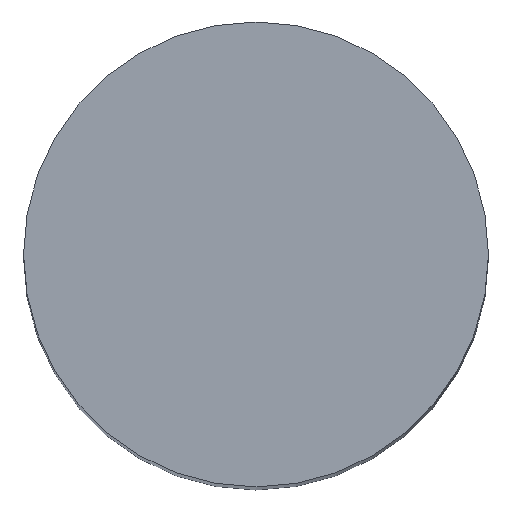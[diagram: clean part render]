
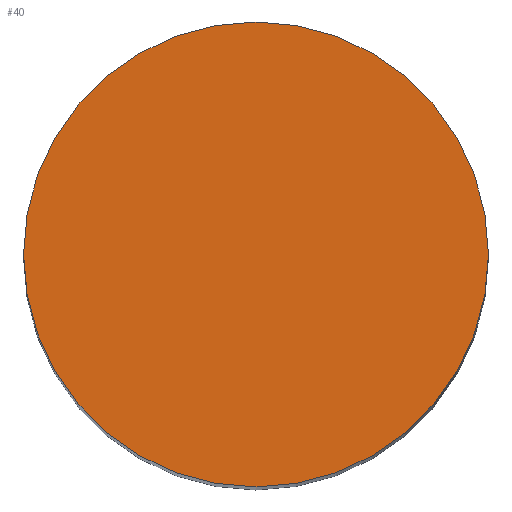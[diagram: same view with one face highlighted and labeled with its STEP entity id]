
A CAD part, top view. The second image highlights one B-rep face of the part: STEP entity #40.
In plain terms, the highlighted planar face has unit normal (0, 0, 1).
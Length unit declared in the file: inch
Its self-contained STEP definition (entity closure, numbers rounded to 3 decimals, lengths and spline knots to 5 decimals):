
#15=PLANE('',#59);
#18=FACE_OUTER_BOUND('',#21,.T.);
#21=EDGE_LOOP('',(#36));
#26=CIRCLE('',#58,0.1875);
#28=VERTEX_POINT('',#78);
#31=EDGE_CURVE('',#28,#28,#26,.T.);
#36=ORIENTED_EDGE('',*,*,#31,.T.);
#40=ADVANCED_FACE('',(#18),#15,.T.);
#58=AXIS2_PLACEMENT_3D('',#80,#68,#69);
#59=AXIS2_PLACEMENT_3D('',#81,#70,#71);
#68=DIRECTION('center_axis',(0.,0.,1.));
#69=DIRECTION('ref_axis',(1.,0.,0.));
#70=DIRECTION('center_axis',(0.,0.,1.));
#71=DIRECTION('ref_axis',(1.,0.,0.));
#78=CARTESIAN_POINT('',(0.1875,0.,1.4311));
#80=CARTESIAN_POINT('Origin',(0.,0.,1.4311));
#81=CARTESIAN_POINT('Origin',(0.,0.,1.4311));
